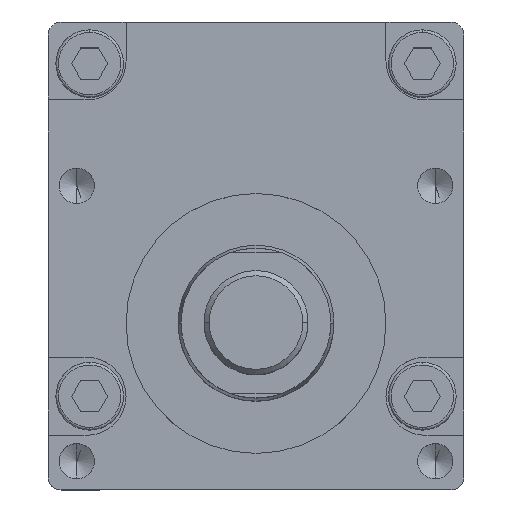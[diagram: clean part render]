
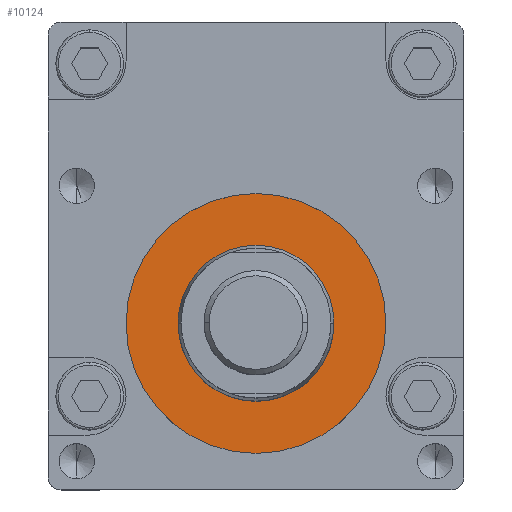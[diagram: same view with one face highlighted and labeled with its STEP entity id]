
A CAD part, top view. The second image highlights one B-rep face of the part: STEP entity #10124.
In plain terms, the highlighted planar face has unit normal (0, 0, 1) as drawn and (0, 0, -1) by its records, which use the part's own axes.
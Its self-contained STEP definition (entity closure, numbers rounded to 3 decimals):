
#574 = DIRECTION ( 'NONE',  ( 0., 0., -1. ) ) ;
#823 = EDGE_CURVE ( 'NONE', #12068, #8501, #13482, .T. ) ;
#1061 = PLANE ( 'NONE',  #5614 ) ;
#1206 = CARTESIAN_POINT ( 'NONE',  ( -38., 0., -47. ) ) ;
#2150 = CIRCLE ( 'NONE', #10581, 25. ) ;
#2202 = CARTESIAN_POINT ( 'NONE',  ( -13., 0., -47. ) ) ;
#2534 = CARTESIAN_POINT ( 'NONE',  ( 2., 0., -47. ) ) ;
#3058 = DIRECTION ( 'NONE',  ( -1., 0., 0. ) ) ;
#3094 = CARTESIAN_POINT ( 'NONE',  ( -28., 0., -47. ) ) ;
#3468 = DIRECTION ( 'NONE',  ( 0., 0., -1. ) ) ;
#3942 = CARTESIAN_POINT ( 'NONE',  ( 12., 0., -47. ) ) ;
#4609 = CARTESIAN_POINT ( 'NONE',  ( -13., 0., -47. ) ) ;
#4914 = ORIENTED_EDGE ( 'NONE', *, *, #6063, .F. ) ;
#5614 = AXIS2_PLACEMENT_3D ( 'NONE', #4609, #3468, #11181 ) ;
#6063 = EDGE_CURVE ( 'NONE', #8501, #12068, #12716, .T. ) ;
#6595 = CARTESIAN_POINT ( 'NONE',  ( -13., 0., -47. ) ) ;
#6673 = AXIS2_PLACEMENT_3D ( 'NONE', #8802, #13427, #3058 ) ;
#6760 = EDGE_LOOP ( 'NONE', ( #10111, #9366 ) ) ;
#6801 = FACE_BOUND ( 'NONE', #9897, .T. ) ;
#7033 = DIRECTION ( 'NONE',  ( -1., 0., 0. ) ) ;
#7974 = AXIS2_PLACEMENT_3D ( 'NONE', #8860, #574, #12422 ) ;
#8070 = EDGE_CURVE ( 'NONE', #9529, #14440, #2150, .T. ) ;
#8145 = DIRECTION ( 'NONE',  ( 0., 0., -1. ) ) ;
#8501 = VERTEX_POINT ( 'NONE', #2534 ) ;
#8802 = CARTESIAN_POINT ( 'NONE',  ( -13., 0., -47. ) ) ;
#8860 = CARTESIAN_POINT ( 'NONE',  ( -13., 0., -47. ) ) ;
#9366 = ORIENTED_EDGE ( 'NONE', *, *, #8070, .T. ) ;
#9529 = VERTEX_POINT ( 'NONE', #1206 ) ;
#9604 = AXIS2_PLACEMENT_3D ( 'NONE', #6595, #14611, #10122 ) ;
#9897 = EDGE_LOOP ( 'NONE', ( #14252, #4914 ) ) ;
#10111 = ORIENTED_EDGE ( 'NONE', *, *, #13193, .T. ) ;
#10122 = DIRECTION ( 'NONE',  ( -1., 0., 0. ) ) ;
#10124 = ADVANCED_FACE ( 'NONE', ( #6801, #12469 ), #1061, .T. ) ;
#10581 = AXIS2_PLACEMENT_3D ( 'NONE', #2202, #8145, #7033 ) ;
#11181 = DIRECTION ( 'NONE',  ( -1., 0., 0. ) ) ;
#12068 = VERTEX_POINT ( 'NONE', #3094 ) ;
#12422 = DIRECTION ( 'NONE',  ( -1., 0., 0. ) ) ;
#12469 = FACE_OUTER_BOUND ( 'NONE', #6760, .T. ) ;
#12716 = CIRCLE ( 'NONE', #6673, 15. ) ;
#12813 = CIRCLE ( 'NONE', #7974, 25. ) ;
#13193 = EDGE_CURVE ( 'NONE', #14440, #9529, #12813, .T. ) ;
#13427 = DIRECTION ( 'NONE',  ( 0., 0., -1. ) ) ;
#13482 = CIRCLE ( 'NONE', #9604, 15. ) ;
#14252 = ORIENTED_EDGE ( 'NONE', *, *, #823, .F. ) ;
#14440 = VERTEX_POINT ( 'NONE', #3942 ) ;
#14611 = DIRECTION ( 'NONE',  ( 0., 0., -1. ) ) ;
